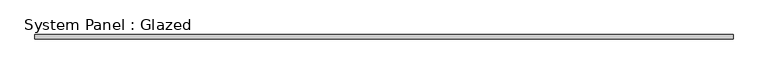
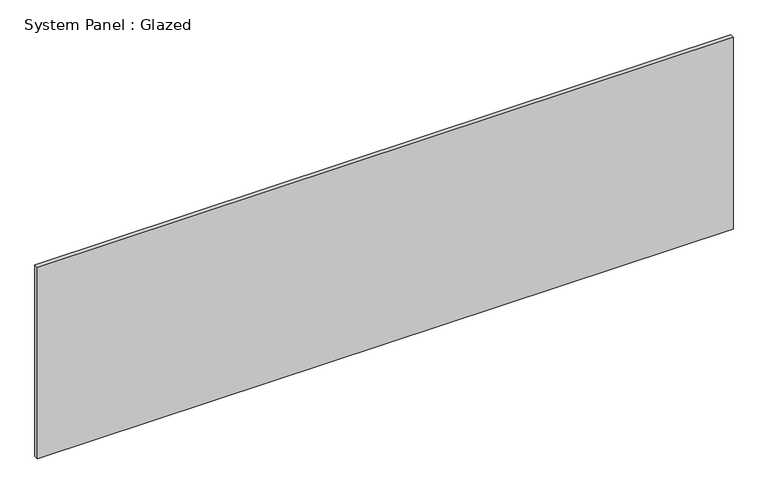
"""IFC4 building model written with IfcOpenShell, lengths in millimetres: plate geometry, System Panel : Glazed."""

from ifc_helpers import new_model, si_unit, origin, origin_with_axes, place, context, project, spatial, polyline, outline, extrude, source, transform, mapped, element, save


def system_panel_glazed_89ac83a7(model_context):
    return source(origin(), model_context, "Body", "SweptSolid", [
        extrude(outline(polyline([(1975.0, 24.5), (-1975.0, 24.5), (-1975.0, 49.5), (1975.0, 49.5), (1975.0, 24.5)])), origin_with_axes(), (0.0, 0.0, 1.0), 1150.0),
    ])


if __name__ == "__main__":
    model = new_model("IFC4")
    model_context = context("Model", 3, world=origin())
    ifc_project = project(units=[si_unit("LENGTHUNIT", "METRE", prefix="MILLI")], contexts=[model_context])
    site = spatial("IfcSite", under=ifc_project)
    building = spatial("IfcBuilding", under=site)
    placement = place(None, origin())
    system_panel_glazed_shape = system_panel_glazed_89ac83a7(model_context)
    element("IfcPlate", 1, ObjectType="System Panel : Glazed", at=placement, inside=building, context=model_context, shape_type="MappedRepresentation", body=[
        mapped(system_panel_glazed_shape, transform((0.0, 0.0, 0.0), x_axis=(1.0, 0.0, 0.0), y_axis=(0.0, 1.0, 0.0), z_axis=(0.0, 0.0, 1.0))),
    ])
    save(model, "model.ifc")
